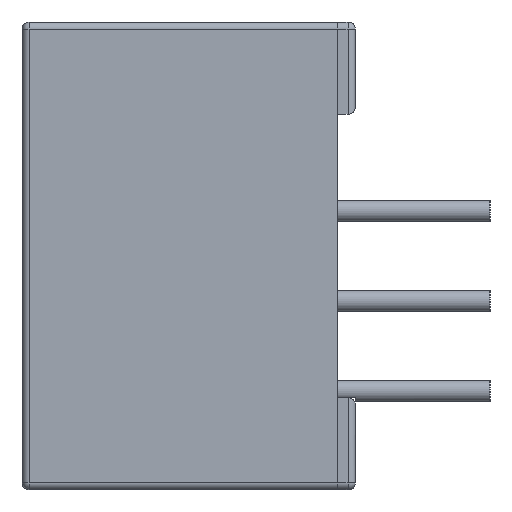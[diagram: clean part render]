
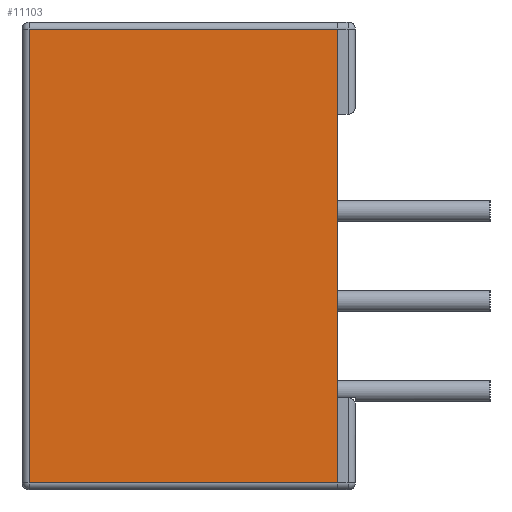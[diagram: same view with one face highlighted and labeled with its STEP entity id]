
A CAD part, left-side view. The second image highlights one B-rep face of the part: STEP entity #11103.
In plain terms, the highlighted planar face has unit normal (-1, 0, 0).
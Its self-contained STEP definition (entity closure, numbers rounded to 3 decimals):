
#3119 = ORIENTED_EDGE ( 'NONE', *, *, #11198, .T. ) ;
#8611 = CARTESIAN_POINT ( 'NONE',  ( -14.5, 0., 4. ) ) ;
#8647 = CARTESIAN_POINT ( 'NONE',  ( -14.5, 0., -4. ) ) ;
#8654 = DIRECTION ( 'NONE',  ( 0., 0., 1. ) ) ;
#8655 = VECTOR ( 'NONE', #8654, 1000. ) ;
#8656 = CARTESIAN_POINT ( 'NONE',  ( -14.5, 0., 6.6 ) ) ;
#8657 = LINE ( 'NONE', #8656, #8655 ) ;
#9176 = CARTESIAN_POINT ( 'NONE',  ( -14.497, 8.69, -6.397 ) ) ;
#9177 = CARTESIAN_POINT ( 'NONE',  ( -14.497, 8.69, 6.397 ) ) ;
#9178 = DIRECTION ( 'NONE',  ( 0., 0., -1. ) ) ;
#9179 = VECTOR ( 'NONE', #9178, 1000. ) ;
#9180 = CARTESIAN_POINT ( 'NONE',  ( -14.497, 8.69, -6.597 ) ) ;
#9181 = DIRECTION ( 'NONE',  ( 0., -1., 0. ) ) ;
#9182 = DIRECTION ( 'NONE',  ( -1., 0., 0. ) ) ;
#9183 = CARTESIAN_POINT ( 'NONE',  ( -14.5, 0., 6.6 ) ) ;
#9184 = LINE ( 'NONE', #9180, #9179 ) ;
#9185 = AXIS2_PLACEMENT_3D ( 'NONE', #9183, #9182, #9181 ) ;
#9186 = PLANE ( 'NONE',  #9185 ) ;
#9187 = FACE_OUTER_BOUND ( 'NONE', #11104, .T. ) ;
#9263 = CARTESIAN_POINT ( 'NONE',  ( -14.5, 0., -6.4 ) ) ;
#9264 = DIRECTION ( 'NONE',  ( 0., -1., 0. ) ) ;
#9265 = VECTOR ( 'NONE', #9264, 1000. ) ;
#9266 = CARTESIAN_POINT ( 'NONE',  ( -14.5, 0.005, -6.4 ) ) ;
#9267 = LINE ( 'NONE', #9266, #9265 ) ;
#9314 = DIRECTION ( 'NONE',  ( 0., 1., 0. ) ) ;
#9315 = VECTOR ( 'NONE', #9314, 1000. ) ;
#9316 = CARTESIAN_POINT ( 'NONE',  ( -14.5, 0., 6.4 ) ) ;
#9317 = LINE ( 'NONE', #9316, #9315 ) ;
#9318 = CARTESIAN_POINT ( 'NONE',  ( -14.5, 0., 6.4 ) ) ;
#9319 = DIRECTION ( 'NONE',  ( 0., 0., 1. ) ) ;
#9320 = VECTOR ( 'NONE', #9319, 1000. ) ;
#9321 = CARTESIAN_POINT ( 'NONE',  ( -14.5, 0., 6.6 ) ) ;
#9322 = LINE ( 'NONE', #9321, #9320 ) ;
#9323 = DIRECTION ( 'NONE',  ( 0., 0., 1. ) ) ;
#9324 = VECTOR ( 'NONE', #9323, 1000. ) ;
#9325 = CARTESIAN_POINT ( 'NONE',  ( -14.5, 0., 6.6 ) ) ;
#9326 = LINE ( 'NONE', #9325, #9324 ) ;
#10637 = VERTEX_POINT ( 'NONE', #8611 ) ;
#10659 = VERTEX_POINT ( 'NONE', #8647 ) ;
#10711 = EDGE_CURVE ( 'NONE', #10659, #10637, #8657, .T. ) ;
#11103 = ADVANCED_FACE ( 'NONE', ( #9187 ), #9186, .T. ) ;
#11104 = EDGE_LOOP ( 'NONE', ( #11105, #3119, #11202, #11206, #11207, #11212 ) ) ;
#11105 = ORIENTED_EDGE ( 'NONE', *, *, #11107, .T. ) ;
#11107 = EDGE_CURVE ( 'NONE', #11109, #11112, #9184, .T. ) ;
#11109 = VERTEX_POINT ( 'NONE', #9177 ) ;
#11112 = VERTEX_POINT ( 'NONE', #9176 ) ;
#11198 = EDGE_CURVE ( 'NONE', #11112, #11201, #9267, .T. ) ;
#11201 = VERTEX_POINT ( 'NONE', #9263 ) ;
#11202 = ORIENTED_EDGE ( 'NONE', *, *, #11204, .T. ) ;
#11204 = EDGE_CURVE ( 'NONE', #11201, #10659, #9326, .T. ) ;
#11206 = ORIENTED_EDGE ( 'NONE', *, *, #10711, .T. ) ;
#11207 = ORIENTED_EDGE ( 'NONE', *, *, #11209, .T. ) ;
#11209 = EDGE_CURVE ( 'NONE', #10637, #11211, #9322, .T. ) ;
#11211 = VERTEX_POINT ( 'NONE', #9318 ) ;
#11212 = ORIENTED_EDGE ( 'NONE', *, *, #11213, .T. ) ;
#11213 = EDGE_CURVE ( 'NONE', #11211, #11109, #9317, .T. ) ;
